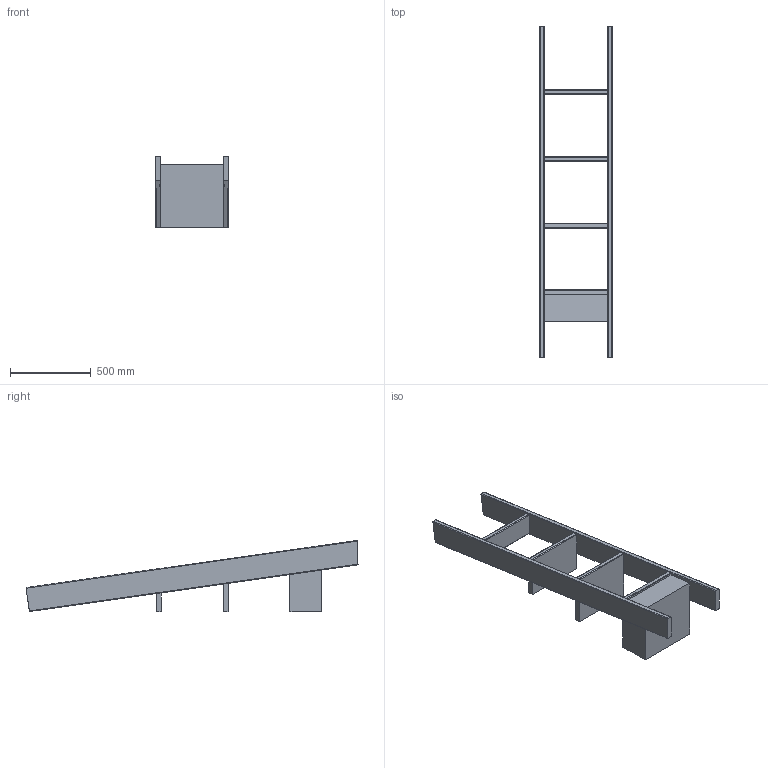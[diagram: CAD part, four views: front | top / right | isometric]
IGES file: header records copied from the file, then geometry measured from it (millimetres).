
Start section: SolidWorks IGES file using analytic representation for surfaces
Global section: file name: C:\Users\Kuma\Box Sync\Autoban\217 Ladder Bookcase\sales related\3D IGES\217M Ladder Bookcase_IGES.IGS; native system: SolidWorks 2016; preprocessor: SolidWorks 2016; author: kuma; date: 161128.172659; units: millimetre
Bounding box: 450 x 2050 x 440.01 mm (x, y, z)
Surface area: 2594592.4 mm2 (no closed solid volume)
Topology: 0 solids, 0 shells, 58 faces, 552 edges, 552 vertices
Faces by surface type: bspline 36, revolution 22
